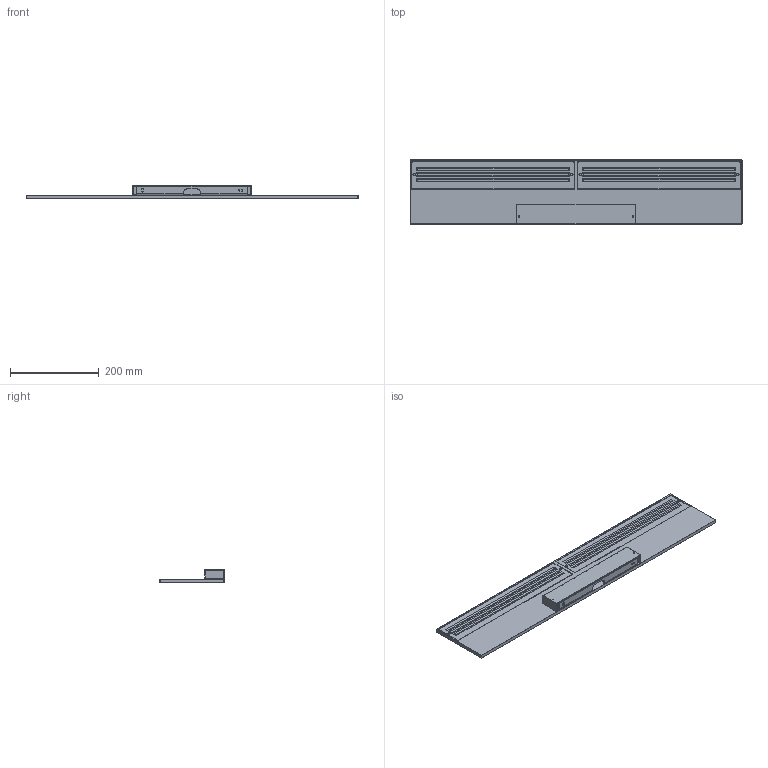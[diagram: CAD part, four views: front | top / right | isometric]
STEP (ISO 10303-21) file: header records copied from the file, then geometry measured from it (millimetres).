
FILE_DESCRIPTION((''),'2;1');
FILE_NAME('SOTTILE_750_SW0001','2025-05-13T14:17:43',('elena.baldelli'),(''),'CREO PARAMETRIC BY PTC INC, 2020354','CREO PARAMETRIC BY PTC INC, 2020354','');
FILE_SCHEMA(('CONFIG_CONTROL_DESIGN'));
Length unit declared in the file: millimetre
Products named in the file (1): SOTTILE_750_SW0001
Bounding box: 750 x 145 x 31.38 mm (x, y, z)
Surface area: 287250.1 mm2 (no closed solid volume)
Topology: 0 solids, 26 shells, 63 faces, 423 edges, 386 vertices
Faces by surface type: plane 50, cylinder 7, extrusion 6
Entity records: 5553 total; most frequent: CARTESIAN_POINT 2611, DIRECTION 497, ORIENTED_EDGE 464, EDGE_CURVE 423, VERTEX_POINT 386, VECTOR 259, LINE 253, AXIS2_PLACEMENT_3D 119
